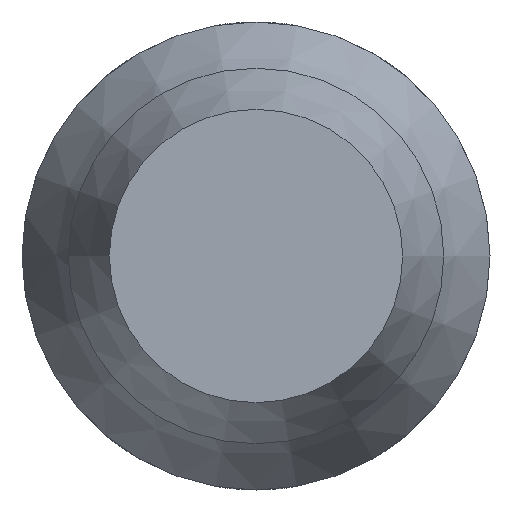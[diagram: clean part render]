
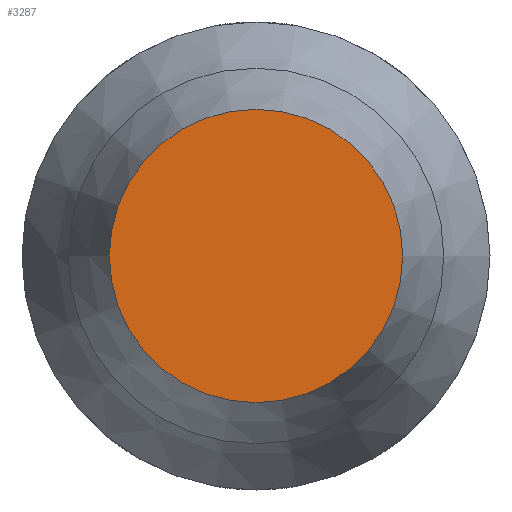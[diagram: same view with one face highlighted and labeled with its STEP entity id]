
A CAD part, left-side view. The second image highlights one B-rep face of the part: STEP entity #3287.
In plain terms, the highlighted planar face has unit normal (-1, 0, 0).
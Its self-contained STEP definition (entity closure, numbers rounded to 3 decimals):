
#3027=CARTESIAN_POINT('',(-5.783,5.079,0.0));
#3028=VERTEX_POINT('',#3027);
#3029=CARTESIAN_POINT('',(-5.783,0.0,0.0));
#3030=DIRECTION('',(1.0,0.0,0.0));
#3031=DIRECTION('',(0.0,1.0,0.0));
#3032=AXIS2_PLACEMENT_3D('',#3029,#3030,#3031);
#3033=CIRCLE('',#3032,5.079);
#3034=EDGE_CURVE('',#3028,#3028,#3033,.T.);
#3279=CARTESIAN_POINT('',(-5.783,2.54,0.0));
#3280=DIRECTION('',(-1.0,0.0,0.0));
#3281=DIRECTION('',(0.0,0.0,1.0));
#3282=AXIS2_PLACEMENT_3D('',#3279,#3280,#3281);
#3283=PLANE('',#3282);
#3284=ORIENTED_EDGE('',*,*,#3034,.F.);
#3285=EDGE_LOOP('',(#3284));
#3286=FACE_OUTER_BOUND('',#3285,.T.);
#3287=ADVANCED_FACE('',(#3286),#3283,.T.);
